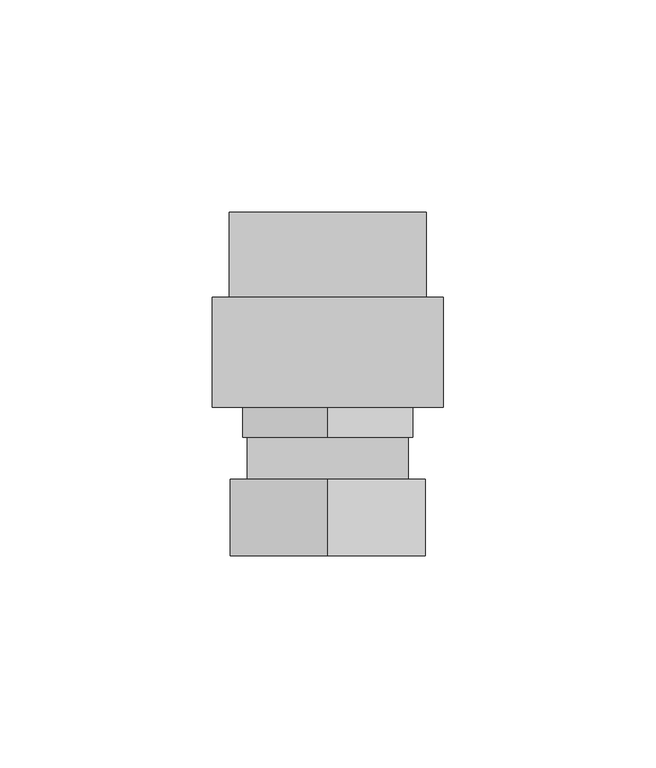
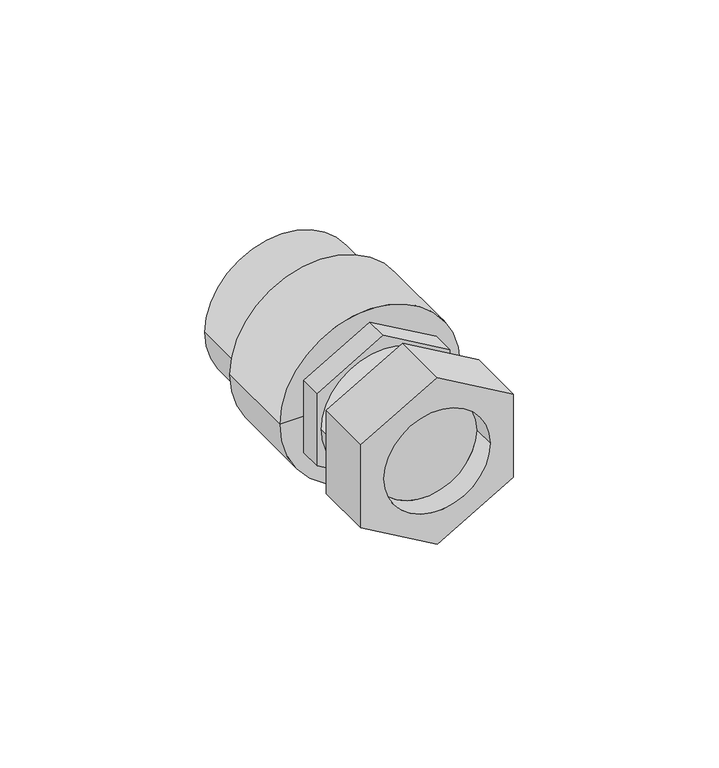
"""IFC4 building model written with IfcOpenShell, lengths in millimetres: pipe fitting geometry, NIRON RED termofusion roscado racor loco : Estándar."""

from ifc_helpers import new_model, si_unit, point, frame, origin, origin_2d, place, context, project, spatial, polyline, circle_curve, trimmed, segment, composite_curve, outline, extrude, source, transform, mapped, element, save
from ifc_brep_helpers import plane_surface, cylinder_surface, revolved_surface, advanced_brep


def pipe_fitting_de4ae63a(model_context):
    return source(origin(), model_context, "Body", "SolidModel", [
        advanced_brep(
        [(23.0, 9.0, -13.2790562), (23.0, 9.0, 13.2790562), (0.0, 9.0, 26.5581124), (-23.0, 9.0, 13.2790562), (-23.0, 9.0, -13.2790562), (0.0, 9.0, -26.5581124), (16.0, 9.0, 0.0), (-16.0, 9.0, 0.0), (23.0, 27.0, -13.2790562), (0.0, 27.0, -26.5581124), (-23.0, 27.0, -13.2790562), (-23.0, 27.0, 13.2790562), (0.0, 27.0, 26.5581124), (23.0, 27.0, 13.2790562), (-16.0, 16.0570795, 0.0), (16.0, 16.0570795, 0.0)],
        [
            (0, 1),
            (1, 2),
            (2, 3),
            (3, 4),
            (4, 5),
            (5, 0),
            (6, 7, circle_curve(frame((0.0, 9.0, 0.0), z_axis=(0.0, 1.0, 0.0), x_axis=(1.0, 0.0, 0.0)), 16.0)),
            (7, 6, circle_curve(frame((0.0, 9.0, 0.0), z_axis=(0.0, 1.0, 0.0), x_axis=(1.0, 0.0, 0.0)), 16.0)),
            (8, 9),
            (9, 10),
            (10, 11),
            (11, 12),
            (12, 13),
            (13, 8),
            (0, 8),
            (13, 1),
            (12, 2),
            (11, 3),
            (10, 4),
            (9, 5),
            (14, 15, circle_curve(frame((0.0, 16.0570795, 0.0), z_axis=(0.0, -1.0, 0.0), x_axis=(1.0, 0.0, 0.0)), 16.0)),
            (15, 14, circle_curve(frame((0.0, 16.0570795, 0.0), z_axis=(0.0, -1.0, 0.0), x_axis=(1.0, 0.0, 0.0)), 16.0)),
            (14, 7),
            (6, 15),
        ],
        [
            plane_surface(frame((0.0, 9.0, 0.0), z_axis=(0.0, -1.0, 0.0), x_axis=(0.0, 0.0, 1.0))),
            plane_surface(frame((0.0, 27.0, 0.0), z_axis=(0.0, 1.0, 0.0), x_axis=(0.0, 0.0, 1.0))),
            plane_surface(frame((23.0, 9.0, -13.2790562), z_axis=(1.0, 0.0, 0.0), x_axis=(0.0, 1.0, 0.0))),
            plane_surface(frame((23.0, 9.0, 13.2790562), z_axis=(0.4999999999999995, 0.0, 0.866025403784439), x_axis=(0.0, 1.0, 0.0))),
            plane_surface(frame((0.0, 9.0, 26.5581124), z_axis=(-0.49999999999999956, 0.0, 0.8660254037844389), x_axis=(0.0, 1.0, 0.0))),
            plane_surface(frame((-23.0, 9.0, 13.2790562), z_axis=(-1.0, 0.0, 0.0), x_axis=(0.0, 1.0, 0.0))),
            plane_surface(frame((-23.0, 9.0, -13.2790562), z_axis=(-0.49999999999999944, 0.0, -0.866025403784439), x_axis=(0.0, 1.0, 0.0))),
            plane_surface(frame((0.0, 9.0, -26.5581124), z_axis=(0.49999999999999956, 0.0, -0.8660254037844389), x_axis=(0.0, 1.0, 0.0))),
            plane_surface(frame((16.0, 16.0570795, 0.0), z_axis=(0.0, -1.0, 0.0), x_axis=(0.0, 0.0, -1.0))),
            revolved_surface(polyline([(16.0, 9.0, 0.0), (16.0, 16.0570795, 0.0)]), (0.0, 16.0570795, 0.0), (0.0, -1.0, 0.0)),
        ],
        [
            (0, [[1, 2, 3, 4, 5, 6], [7, 8]]),
            (1, [[9, 10, 11, 12, 13, 14]]),
            (2, [[-1, 15, -14, 16]]),
            (3, [[-2, -16, -13, 17]]),
            (4, [[-3, -17, -12, 18]]),
            (5, [[-4, -18, -11, 19]]),
            (6, [[-5, -19, -10, 20]]),
            (7, [[-6, -20, -9, -15]]),
            (8, [[21, 22]]),
            (9, [[-21, 23, -7, 24]]),
            (9, [[-22, -24, -8, -23]]),
        ],
    ),
        extrude(outline(polyline([(-11.5470054, 20.0), (11.5470054, 20.0), (23.0940108, 0.0), (11.5470054, -20.0), (-11.5470054, -20.0), (-23.0940108, 0.0), (-11.5470054, 20.0)])), frame((0.0, 37.0, 0.0), z_axis=(0.0, 1.0, 0.0), x_axis=(0.0, 0.0, 1.0)), (0.0, 0.0, 1.0), 7.0),
        extrude(outline(composite_curve([segment(trimmed(circle_curve(origin_2d(), 19.0), [point((0.0, -19.0))], [point((0.0, 19.0))], False, "CARTESIAN"), True, "CONTINUOUS"), segment(trimmed(circle_curve(origin_2d(), 19.0), [point((0.0, 19.0))], [point((0.0, -19.0))], False, "CARTESIAN"), True, "CONTINUOUS")], self_intersect=False)), frame((0.0, 27.0, 0.0), z_axis=(0.0, 1.0, 0.0), x_axis=(0.0, 0.0, 1.0)), (0.0, 0.0, 1.0), 10.0),
        advanced_brep(
        [(23.25, 90.0, 0.0), (-23.25, 90.0, 0.0), (0.0, 90.0, 0.0), (27.25, 44.0, 0.0), (-27.25, 44.0, 0.0), (-27.25, 70.0, 0.0), (27.25, 70.0, 0.0), (0.0, 44.0, 0.0), (23.25, 70.0, 0.0), (-23.25, 70.0, 0.0)],
        [
            (0, 1, circle_curve(frame((0.0, 90.0, 0.0), z_axis=(0.0, 1.0, 0.0), x_axis=(-1.0, 0.0, 0.0)), 23.25)),
            (1, 2),
            (2, 0),
            (1, 0, circle_curve(frame((0.0, 90.0, 0.0), z_axis=(0.0, 1.0, 0.0), x_axis=(-1.0, 0.0, 0.0)), 23.25)),
            (3, 4, circle_curve(frame((0.0, 44.0, 0.0), z_axis=(0.0, 1.0, 0.0), x_axis=(-1.0, 0.0, 0.0)), 27.25)),
            (4, 5),
            (5, 6, circle_curve(frame((0.0, 70.0, 0.0), z_axis=(0.0, -1.0, 0.0), x_axis=(-1.0, 0.0, 0.0)), 27.25)),
            (6, 3),
            (4, 3, circle_curve(frame((0.0, 44.0, 0.0), z_axis=(0.0, 1.0, 0.0), x_axis=(-1.0, 0.0, 0.0)), 27.25)),
            (6, 5, circle_curve(frame((0.0, 70.0, 0.0), z_axis=(0.0, -1.0, 0.0), x_axis=(-1.0, 0.0, 0.0)), 27.25)),
            (7, 4),
            (3, 7),
            (8, 9, circle_curve(frame((0.0, 70.0, 0.0), z_axis=(0.0, 1.0, 0.0), x_axis=(-1.0, 0.0, 0.0)), 23.25)),
            (9, 1),
            (0, 8),
            (9, 8, circle_curve(frame((0.0, 70.0, 0.0), z_axis=(0.0, 1.0, 0.0), x_axis=(-1.0, 0.0, 0.0)), 23.25)),
            (5, 9),
            (8, 6),
        ],
        [
            plane_surface(frame((0.0, 90.0, 0.0), z_axis=(0.0, 1.0, 0.0), x_axis=(-1.0, 0.0, 0.0))),
            cylinder_surface(frame((0.0, 100.0, 0.0), z_axis=(0.0, -1.0, 0.0), x_axis=(-1.0, 0.0, 0.0)), 27.25),
            plane_surface(frame((0.0, 44.0, 0.0), z_axis=(0.0, -1.0, 0.0), x_axis=(-1.0, 0.0, 0.0))),
            cylinder_surface(frame((0.0, 100.0, 0.0), z_axis=(0.0, -1.0, 0.0), x_axis=(-1.0, 0.0, 0.0)), 23.25),
            plane_surface(frame((0.0, 70.0, 0.0), z_axis=(0.0, 1.0, 0.0), x_axis=(-1.0, 0.0, 0.0))),
        ],
        [
            (0, [[1, 2, 3]]),
            (0, [[4, -3, -2]]),
            (1, [[5, 6, 7, 8]]),
            (1, [[9, -8, 10, -6]]),
            (2, [[11, -5, 12]]),
            (2, [[-12, -9, -11]]),
            (3, [[13, 14, -1, 15]]),
            (3, [[16, -15, -4, -14]]),
            (4, [[-7, 17, -13, 18]]),
            (4, [[-10, -18, -16, -17]]),
        ],
    ),
    ])


if __name__ == "__main__":
    model = new_model("IFC4")
    model_context = context("Model", 3, world=origin())
    ifc_project = project(units=[si_unit("LENGTHUNIT", "METRE", prefix="MILLI")], contexts=[model_context])
    site = spatial("IfcSite", under=ifc_project)
    building = spatial("IfcBuilding", under=site)
    placement = place(None, origin())
    pipe_fitting_shape = pipe_fitting_de4ae63a(model_context)
    element("IfcPipeFitting", 1, ObjectType="NIRON RED termofusion roscado racor loco : Estándar", at=placement, inside=building, context=model_context, shape_type="MappedRepresentation", body=[
        mapped(pipe_fitting_shape, transform((0.0, 0.0, 0.0), x_axis=(1.0, 0.0, 0.0), y_axis=(0.0, 1.0, 0.0), z_axis=(0.0, 0.0, 1.0))),
    ])
    save(model, "model.ifc")
